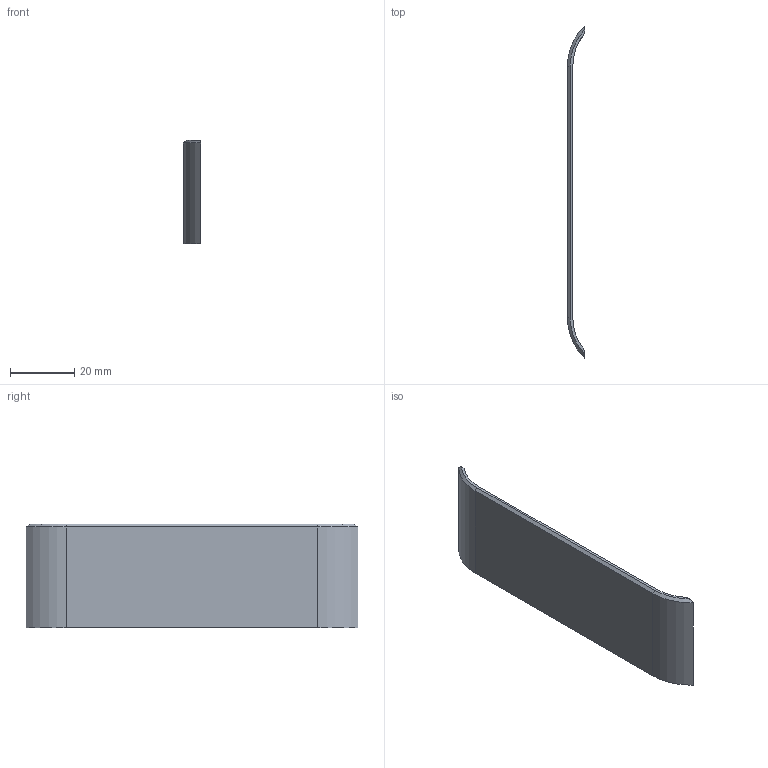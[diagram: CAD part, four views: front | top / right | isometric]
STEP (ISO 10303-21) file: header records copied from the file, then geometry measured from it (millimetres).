
FILE_DESCRIPTION(('Open CASCADE Model'),'2;1');
FILE_NAME('Open CASCADE Shape Model','2026-11-02T07:25:43',('Author'),( 'Open CASCADE'),'Open CASCADE STEP processor 7.8','Open CASCADE 7.8' ,'Unknown');
FILE_SCHEMA(('AUTOMOTIVE_DESIGN { 1 0 10303 214 1 1 1 1 }'));
Length unit declared in the file: millimetre
Products named in the file (1): Open CASCADE STEP translator 7.8 2
Bounding box: 5.34 x 103.26 x 32.2 mm (x, y, z)
Volume: 5446.1 mm3; surface area: 7086.7 mm2
Topology: 1 solids, 1 shells, 13 faces, 31 edges, 20 vertices
Faces by surface type: plane 7, cylinder 4, cone 2
Entity records: 806 total; most frequent: CARTESIAN_POINT 167, DIRECTION 121, LINE 63, VECTOR 63, ORIENTED_EDGE 62, PCURVE 62, DEFINITIONAL_REPRESENTATION 62, EDGE_CURVE 31
